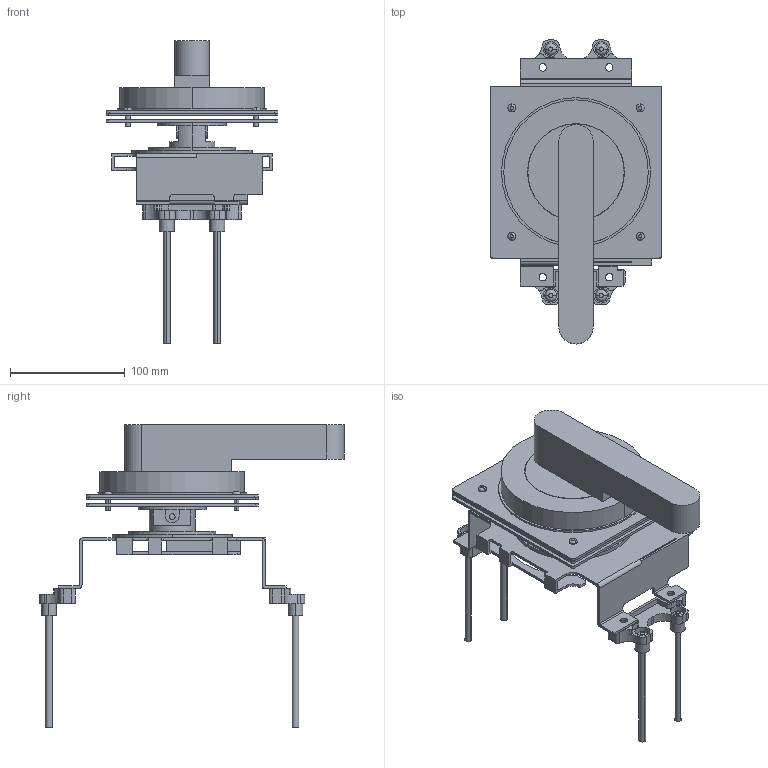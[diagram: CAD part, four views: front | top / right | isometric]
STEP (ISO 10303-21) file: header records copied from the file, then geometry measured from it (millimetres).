
FILE_DESCRIPTION( ( '' ), '1' );
FILE_NAME( 'E:/D&C電子外形図_3D/step/distribution/g-twin/breaker_accessory/handle/BW9V0HA.stp', '2012-10-19T07:52:09', ( '' ), ( '' ), ' ', ' ', ' ' );
FILE_SCHEMA( ( 'automotive_design' ) );
Length unit declared in the file: millimetre
Products named in the file (17): 1; 2; 3; 4; 5; 6; 7; 8; 9; 10; 11; 12; 13; 14; 15; 16; 17
Bounding box: 150 x 265.5 x 264 mm (x, y, z)
Volume: 721890.7 mm3; surface area: 245668.2 mm2
Topology: 17 solids, 17 shells, 467 faces, 1242 edges, 830 vertices
Faces by surface type: cylinder 236, plane 215, torus 16
Entity records: 29363 total; most frequent: DIRECTION 2749, STYLED_ITEM 2556, PRESENTATION_STYLE_ASSIGNMENT 2556, CARTESIAN_POINT 2556, COLOUR_RGB 2556, ORIENTED_EDGE 2484, EDGE_CURVE 1242, CURVE_STYLE 1242
